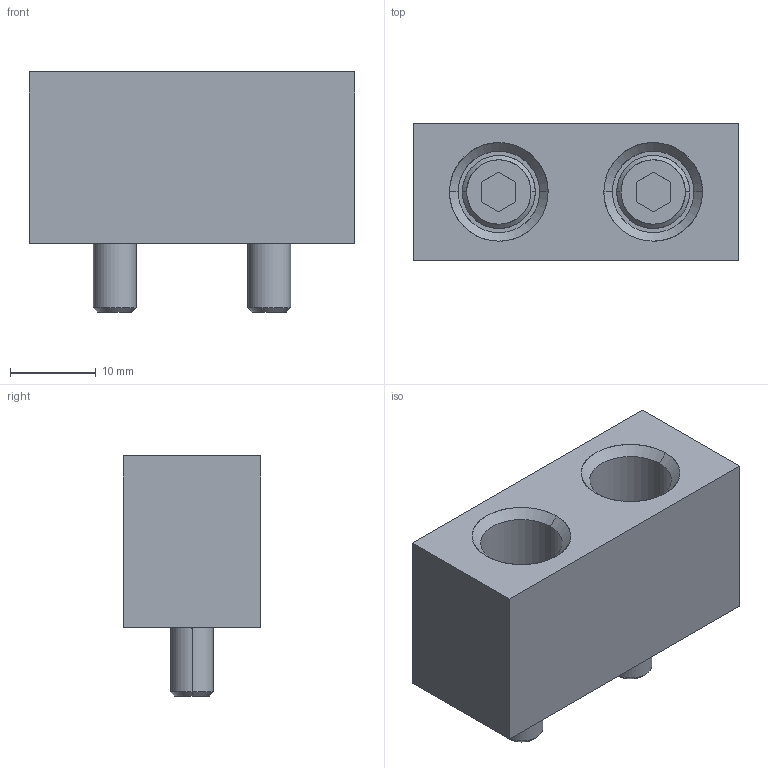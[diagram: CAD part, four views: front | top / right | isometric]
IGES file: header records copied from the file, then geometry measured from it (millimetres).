
Global section: file name: E:\UnigraphicsGraphicData\MISUMI_PRESS-PARTS\IGES\3d_sbvk16-38-20-n-15_00150_r00.igs; native system: NX V5.0; preprocessor: UGS NX IGES V5.0; author: MISUMI; date: 20110105.162509; units: millimetre
Bounding box: 38 x 16 x 28 mm (x, y, z)
Surface area: 5278.8 mm2 (no closed solid volume)
Topology: 0 solids, 0 shells, 56 faces, 336 edges, 336 vertices
Faces by surface type: bspline 56
